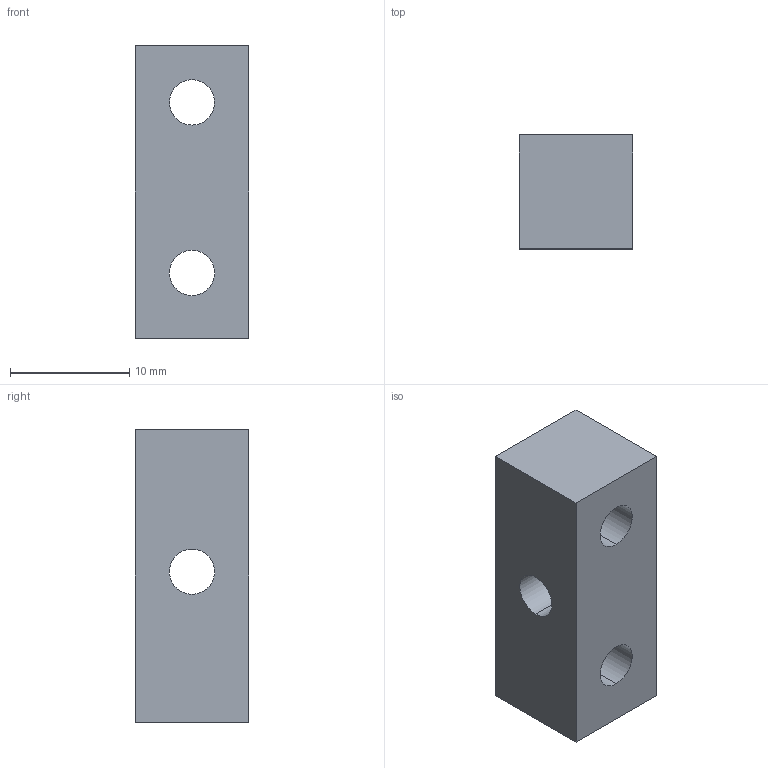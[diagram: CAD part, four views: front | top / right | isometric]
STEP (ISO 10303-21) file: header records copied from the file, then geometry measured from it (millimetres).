
FILE_DESCRIPTION (( 'STEP AP214' ), '1' );
FILE_NAME ('0.375in Medium NutStrip 2x1 R1.STEP', '2019-10-02T22:05:01', ( 'Kurtis' ), ( '' ), 'SwSTEP 2.0', 'SolidWorks 2015', '' );
FILE_SCHEMA (( 'AUTOMOTIVE_DESIGN' ));
Length unit declared in the file: inch
Products named in the file (1): 0.375in Medium NutStrip 2x1 R1
Bounding box: 9.53 x 9.53 x 24.54 mm (x, y, z)
Volume: 1902.6 mm3; surface area: 1389.3 mm2
Topology: 1 solids, 1 shells, 12 faces, 30 edges, 20 vertices
Faces by surface type: cylinder 6, plane 6
Entity records: 496 total; most frequent: DIRECTION 68, CARTESIAN_POINT 63, ORIENTED_EDGE 60, EDGE_CURVE 30, AXIS2_PLACEMENT_3D 25, VERTEX_POINT 20, EDGE_LOOP 18, LINE 18
